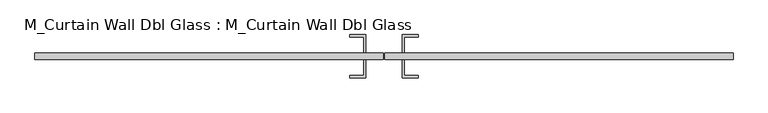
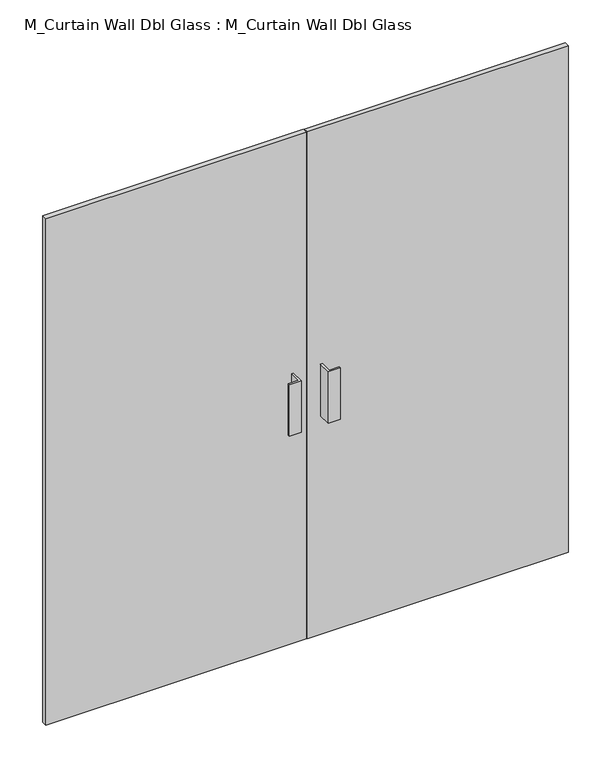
"""IFC4 building model written with IfcOpenShell, lengths in millimetres: plate geometry, M_Curtain Wall Dbl Glass : M_Curtain Wall Dbl Glass."""

import ifcopenshell
import ifcopenshell.guid

model = None  # the IFC model being written
_history = None  # IfcOwnerHistory: only IFC2X3 demands one
_inside = {}  # id of a spatial element -> (the spatial element, [elements in it])
_under = {}  # id of a project, library or spatial element -> (it, [spatial elements below it])
_declared = {}  # id of a project -> (the project, [libraries it declares])
_typed = {}  # id of a type object -> (the type object, [elements of that type])
_made_of = {}  # id of a material, layer set ... -> (it, [elements and type objects made of it])


def new_model(schema):
    """Start an empty IFC model of exactly this schema.

    Asked for "IFC4X3", IfcOpenShell would pick the latest addendum, in which some entities
    have other attributes; the version numbers below select the first issue.
    IFC2X3 requires an IfcOwnerHistory on every rooted entity: one is made here for all.
    """
    global model, _history
    if schema == "IFC4X3":
        model = ifcopenshell.file(schema_version=(4, 3, 0, 0))
    else:
        model = ifcopenshell.file(schema=schema)
    _inside.clear()
    _under.clear()
    _declared.clear()
    _typed.clear()
    _made_of.clear()
    _history = None
    if model.schema == "IFC2X3":
        org = make("IfcOrganization", Name="unknown")
        user = make(
            "IfcPersonAndOrganization",
            ThePerson=make("IfcPerson", FamilyName="unknown"),
            TheOrganization=org,
        )
        app = make(
            "IfcApplication",
            ApplicationDeveloper=org,
            Version="unknown",
            ApplicationFullName="unknown",
            ApplicationIdentifier="unknown",
        )
        _history = make(
            "IfcOwnerHistory",
            OwningUser=user,
            OwningApplication=app,
            ChangeAction="ADDED",
            CreationDate=0,
        )
    return model


def make(cls, **values):
    """One entity of the class cls with the attributes given. An attribute that is None is left unset."""
    return model.create_entity(
        cls, **{name: value for name, value in values.items() if value is not None}
    )


def rooted(cls, **values):
    """An entity with a GlobalId (a new one), such as an element, a storey or a relation."""
    return make(cls, GlobalId=ifcopenshell.guid.new(), OwnerHistory=_history, **values)


def si_unit(unit_type, name, prefix=None):
    """IfcSIUnit, for example si_unit("LENGTHUNIT", "METRE", prefix="MILLI")."""
    return make("IfcSIUnit", UnitType=unit_type, Prefix=prefix, Name=name)


def assignment(units):
    """IfcUnitAssignment: the units of a project."""
    return None if units is None else make("IfcUnitAssignment", Units=units)


def point(xyz):
    """IfcCartesianPoint."""
    return None if xyz is None else make("IfcCartesianPoint", Coordinates=xyz)


def direction(xyz):
    """IfcDirection."""
    return None if xyz is None else make("IfcDirection", DirectionRatios=xyz)


def frame(location, z_axis=None, x_axis=None):
    """IfcAxis2Placement3D, a coordinate frame: its origin and axes. An axis left out is left unset."""
    return make(
        "IfcAxis2Placement3D",
        Location=point(location),
        Axis=direction(z_axis),
        RefDirection=direction(x_axis),
    )


def origin():
    """The frame at (0, 0, 0) with its axes left unset."""
    return frame((0.0, 0.0, 0.0))


def origin_with_axes():
    """The frame at (0, 0, 0) with the z axis (0, 0, 1) and the x axis (1, 0, 0) written out."""
    return frame((0.0, 0.0, 0.0), z_axis=(0.0, 0.0, 1.0), x_axis=(1.0, 0.0, 0.0))


def place(relative_to, where):
    """IfcLocalPlacement: puts the frame where relative to a parent placement (None: the world)."""
    return make(
        "IfcLocalPlacement", PlacementRelTo=relative_to, RelativePlacement=where
    )


def context(
    kind, dimensions, precision=None, world=None, true_north=None, identifier=None
):
    """IfcGeometricRepresentationContext, for example the 3D "Model" context."""
    return make(
        "IfcGeometricRepresentationContext",
        ContextIdentifier=identifier,
        ContextType=kind,
        CoordinateSpaceDimension=dimensions,
        Precision=precision,
        WorldCoordinateSystem=world,
        TrueNorth=true_north,
    )


def project(units=None, contexts=None):
    """IfcProject with its units and contexts."""
    return rooted(
        "IfcProject",
        Name="project",
        RepresentationContexts=contexts,
        UnitsInContext=assignment(units),
    )


def spatial(cls, under=None, at=None, **own):
    """A site, building, storey or space (cls), placed at a placement, below another one or the project."""
    s = rooted(cls, ObjectPlacement=at, **own)
    if under is not None:
        _under.setdefault(under.id(), (under, []))[1].append(s)
    return s


def polyline(points):
    """IfcPolyline through the points."""
    return make("IfcPolyline", Points=[point(p) for p in points])


def outline(outer, holes=None, kind="AREA"):
    """IfcArbitraryClosedProfileDef: a profile drawn as a closed curve; with holes, ...WithVoids."""
    if holes is None:
        return make("IfcArbitraryClosedProfileDef", ProfileType=kind, OuterCurve=outer)
    return make(
        "IfcArbitraryProfileDefWithVoids",
        ProfileType=kind,
        OuterCurve=outer,
        InnerCurves=holes,
    )


def extrude(swept, where, along, depth):
    """IfcExtrudedAreaSolid: the profile swept, set in the frame where, extruded along a direction by depth."""
    return make(
        "IfcExtrudedAreaSolid",
        SweptArea=swept,
        Position=where,
        ExtrudedDirection=direction(along),
        Depth=depth,
    )


def shape(context_of_items, identifier, shape_type, items):
    """IfcShapeRepresentation: the items that make up one representation, for example the "Body"."""
    return make(
        "IfcShapeRepresentation",
        ContextOfItems=context_of_items,
        RepresentationIdentifier=identifier,
        RepresentationType=shape_type,
        Items=items,
    )


def source(mapping_origin, context_of_items, identifier, shape_type, items):
    """IfcRepresentationMap: a shape defined once, which mapped items show again and again."""
    return make(
        "IfcRepresentationMap",
        MappingOrigin=mapping_origin,
        MappedRepresentation=shape(context_of_items, identifier, shape_type, items),
    )


def transform(
    local_origin,
    x_axis=None,
    y_axis=None,
    z_axis=None,
    scale=None,
    scale2=None,
    scale3=None,
    uniform=True,
):
    """IfcCartesianTransformationOperator3D, or its non-uniform kind. x_axis, y_axis, z_axis: its Axis1, 2, 3."""
    if uniform:
        return make(
            "IfcCartesianTransformationOperator3D",
            Axis1=direction(x_axis),
            Axis2=direction(y_axis),
            LocalOrigin=point(local_origin),
            Scale=scale,
            Axis3=direction(z_axis),
        )
    return make(
        "IfcCartesianTransformationOperator3DnonUniform",
        Axis1=direction(x_axis),
        Axis2=direction(y_axis),
        LocalOrigin=point(local_origin),
        Scale=scale,
        Axis3=direction(z_axis),
        Scale2=scale2,
        Scale3=scale3,
    )


def mapped(mapping_source, mapping_target):
    """IfcMappedItem: shows the shape of a source again, moved by a transform."""
    return make(
        "IfcMappedItem", MappingSource=mapping_source, MappingTarget=mapping_target
    )


def made_of(thing, what):
    """Note that an element or type object is made of a material, layer set ...; save() writes the relation."""
    if what is not None:
        _made_of.setdefault(what.id(), (what, []))[1].append(thing)
    return thing


def element(
    cls,
    number,
    at=None,
    inside=None,
    cuts=None,
    type_object=None,
    material=None,
    context=None,
    identifier="Body",
    shape_type=None,
    held_by="IfcProductDefinitionShape",
    body=None,
    shapes=None,
    **own,
):
    """One element of the class cls, such as IfcWall. Its Tag is "e" and its number.

    at: its placement. inside: the storey or other place that contains it. cuts: it is an
    opening in that element (IfcRelVoidsElement). A single representation is given by context,
    identifier, shape_type and body (its items); several are given by shapes. held_by: the class
    of the entity that holds the representations. save() writes the other relations.
    """
    e = rooted(cls, Tag="e%d" % number, ObjectPlacement=at, **own)
    if body is not None:
        shapes = [shape(context, identifier, shape_type, body)]
    if shapes is not None:
        e.Representation = make(held_by, Representations=shapes)
    if inside is not None:
        _inside.setdefault(inside.id(), (inside, []))[1].append(e)
    if cuts is not None:
        rooted(
            "IfcRelVoidsElement", RelatingBuildingElement=cuts, RelatedOpeningElement=e
        )
    if type_object is not None:
        _typed.setdefault(type_object.id(), (type_object, []))[1].append(e)
    return made_of(e, material)


def aggregate(whole, parts):
    """IfcRelAggregates: a whole, such as a stair, and the parts it consists of."""
    return rooted("IfcRelAggregates", RelatingObject=whole, RelatedObjects=parts)


def save(model, path):
    """Write the relations noted so far, then the file.

    IfcRelAggregates (storeys below a building ...), IfcRelContainedInSpatialStructure (elements
    in a storey), IfcRelDefinesByType, IfcRelAssociatesMaterial and IfcRelDeclares: one each for
    every whole, place, type object, material and project.
    """
    for whole, parts in _under.values():
        aggregate(whole, parts)
    for where, things in _inside.values():
        rooted(
            "IfcRelContainedInSpatialStructure",
            RelatedElements=things,
            RelatingStructure=where,
        )
    for kind, things in _typed.values():
        rooted("IfcRelDefinesByType", RelatedObjects=things, RelatingType=kind)
    for what, things in _made_of.values():
        rooted("IfcRelAssociatesMaterial", RelatedObjects=things, RelatingMaterial=what)
    for by, libraries in _declared.values():
        rooted("IfcRelDeclares", RelatingContext=by, RelatedDefinitions=libraries)
    model.write(path)


def m_curtain_wall_dbl_glass_m_curtain_wall_dbl_glass_b983a01c(model_context):
    return source(origin(), model_context, "Body", "SweptSolid", [
        extrude(outline(polyline([(-1.5875, -30.95), (-1.5875, -50.0), (-975.0, -50.0), (-975.0, -30.95), (-1.5875, -30.95)])), origin_with_axes(), (0.0, 0.0, 1.0), 2000.0),
        extrude(outline(polyline([(975.0, -30.95), (975.0, -50.0), (1.5875, -50.0), (1.5875, -30.95), (975.0, -30.95)])), origin_with_axes(), (0.0, 0.0, 1.0), 2000.0),
        extrude(outline(polyline([(-50.8, -100.8), (-95.25, -100.8), (-95.25, -94.45), (-57.15, -94.45), (-57.15, -50.0), (-50.8, -50.0), (-50.8, -100.8)])), frame((0.0, 0.0, 863.6), z_axis=(0.0, 0.0, 1.0), x_axis=(1.0, 0.0, 0.0)), (0.0, 0.0, 1.0), 203.2),
        extrude(outline(polyline([(50.8, -100.8), (50.8, -50.0), (57.15, -50.0), (57.15, -94.45), (95.25, -94.45), (95.25, -100.8), (50.8, -100.8)])), frame((0.0, 0.0, 863.6), z_axis=(0.0, 0.0, 1.0), x_axis=(1.0, 0.0, 0.0)), (0.0, 0.0, 1.0), 203.2),
        extrude(outline(polyline([(-50.8, 19.85), (-50.8, -30.95), (-57.15, -30.95), (-57.15, 13.5), (-95.25, 13.5), (-95.25, 19.85), (-50.8, 19.85)])), frame((0.0, 0.0, 863.6), z_axis=(0.0, 0.0, 1.0), x_axis=(1.0, 0.0, 0.0)), (0.0, 0.0, 1.0), 203.2),
        extrude(outline(polyline([(50.8, 19.85), (95.25, 19.85), (95.25, 13.5), (57.15, 13.5), (57.15, -30.95), (50.8, -30.95), (50.8, 19.85)])), frame((0.0, 0.0, 863.6), z_axis=(0.0, 0.0, 1.0), x_axis=(1.0, 0.0, 0.0)), (0.0, 0.0, 1.0), 203.2),
    ])


if __name__ == "__main__":
    model = new_model("IFC4")
    model_context = context("Model", 3, world=origin())
    ifc_project = project(units=[si_unit("LENGTHUNIT", "METRE", prefix="MILLI")], contexts=[model_context])
    site = spatial("IfcSite", under=ifc_project)
    building = spatial("IfcBuilding", under=site)
    placement = place(None, origin())
    m_curtain_wall_dbl_glass_m_curtain_wall_dbl_glass_shape = m_curtain_wall_dbl_glass_m_curtain_wall_dbl_glass_b983a01c(model_context)
    element("IfcPlate", 1, ObjectType="M_Curtain Wall Dbl Glass : M_Curtain Wall Dbl Glass", at=placement, inside=building, context=model_context, shape_type="MappedRepresentation", body=[
        mapped(m_curtain_wall_dbl_glass_m_curtain_wall_dbl_glass_shape, transform((0.0, 0.0, 0.0), x_axis=(1.0, 0.0, 0.0), y_axis=(0.0, 1.0, 0.0), z_axis=(0.0, 0.0, 1.0))),
    ])
    save(model, "model.ifc")
